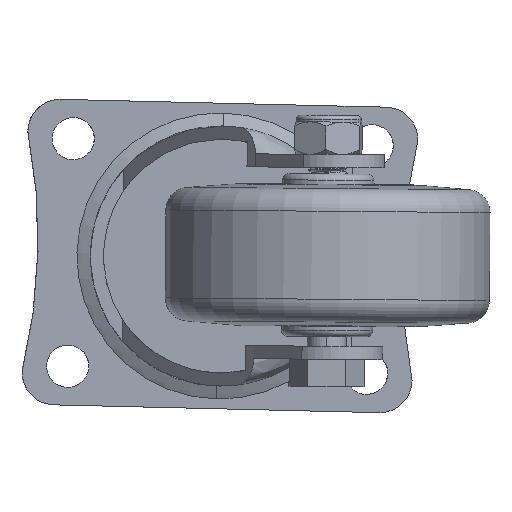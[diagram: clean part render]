
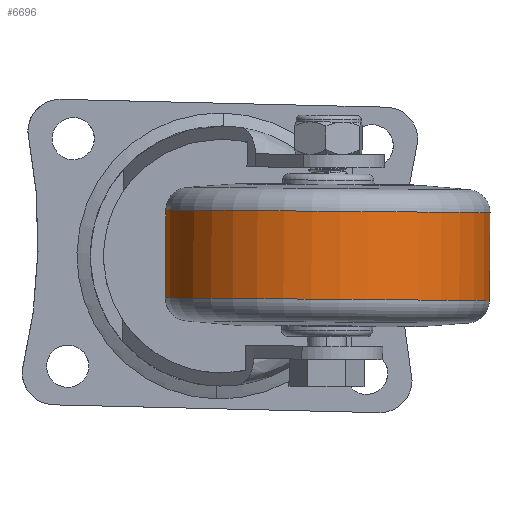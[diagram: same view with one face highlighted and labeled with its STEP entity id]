
A CAD part, front view. The second image highlights one B-rep face of the part: STEP entity #6696.
In plain terms, the highlighted cylindrical face has radius 25 mm (diameter 50 mm), a partial arc.
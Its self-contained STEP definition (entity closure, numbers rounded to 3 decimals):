
#21 = ORIENTED_EDGE ( 'NONE', *, *, #24185, .F. ) ;
#1065 = VERTEX_POINT ( 'NONE', #10684 ) ;
#1721 = AXIS2_PLACEMENT_3D ( 'NONE', #16814, #25605, #5898 ) ;
#3779 = ORIENTED_EDGE ( 'NONE', *, *, #6376, .T. ) ;
#4606 = EDGE_CURVE ( 'NONE', #19801, #21156, #15026, .T. ) ;
#5113 = DIRECTION ( 'NONE',  ( 0., 0., -1. ) ) ;
#5623 = CARTESIAN_POINT ( 'NONE',  ( 0., 0., 0. ) ) ;
#5898 = DIRECTION ( 'NONE',  ( 0., 0., -1. ) ) ;
#6376 = EDGE_CURVE ( 'NONE', #21355, #1065, #13496, .T. ) ;
#6628 = AXIS2_PLACEMENT_3D ( 'NONE', #12020, #20804, #5113 ) ;
#6696 = ADVANCED_FACE ( 'NONE', ( #18022 ), #14517, .T. ) ;
#6768 = EDGE_LOOP ( 'NONE', ( #21, #3779, #16730, #24713 ) ) ;
#10623 = CARTESIAN_POINT ( 'NONE',  ( 0., 6.767, 25. ) ) ;
#10684 = CARTESIAN_POINT ( 'NONE',  ( 0., 6.767, -25. ) ) ;
#12020 = CARTESIAN_POINT ( 'NONE',  ( 0., 6.767, 0. ) ) ;
#12221 = DIRECTION ( 'NONE',  ( 0., 0., -1. ) ) ;
#12659 = EDGE_CURVE ( 'NONE', #1065, #21156, #20163, .T. ) ;
#13496 = CIRCLE ( 'NONE', #6628, 25. ) ;
#14517 = CYLINDRICAL_SURFACE ( 'NONE', #16278, 25. ) ;
#14774 = CARTESIAN_POINT ( 'NONE',  ( 0., -6.767, -25. ) ) ;
#15026 = CIRCLE ( 'NONE', #1721, 25. ) ;
#15829 = DIRECTION ( 'NONE',  ( 0., -1., 0. ) ) ;
#16278 = AXIS2_PLACEMENT_3D ( 'NONE', #5623, #27626, #12221 ) ;
#16432 = LINE ( 'NONE', #25209, #24672 ) ;
#16574 = DIRECTION ( 'NONE',  ( 0., -1., 0. ) ) ;
#16730 = ORIENTED_EDGE ( 'NONE', *, *, #12659, .T. ) ;
#16814 = CARTESIAN_POINT ( 'NONE',  ( 0., -6.767, 0. ) ) ;
#18022 = FACE_OUTER_BOUND ( 'NONE', #6768, .T. ) ;
#19801 = VERTEX_POINT ( 'NONE', #22610 ) ;
#20163 = LINE ( 'NONE', #26786, #23860 ) ;
#20804 = DIRECTION ( 'NONE',  ( 0., -1., 0. ) ) ;
#21156 = VERTEX_POINT ( 'NONE', #14774 ) ;
#21355 = VERTEX_POINT ( 'NONE', #10623 ) ;
#22610 = CARTESIAN_POINT ( 'NONE',  ( 0., -6.767, 25. ) ) ;
#23860 = VECTOR ( 'NONE', #15829, 1000. ) ;
#24185 = EDGE_CURVE ( 'NONE', #21355, #19801, #16432, .T. ) ;
#24672 = VECTOR ( 'NONE', #16574, 1000. ) ;
#24713 = ORIENTED_EDGE ( 'NONE', *, *, #4606, .F. ) ;
#25209 = CARTESIAN_POINT ( 'NONE',  ( 0., 0., 25. ) ) ;
#25605 = DIRECTION ( 'NONE',  ( 0., -1., 0. ) ) ;
#26786 = CARTESIAN_POINT ( 'NONE',  ( 0., 0., -25. ) ) ;
#27626 = DIRECTION ( 'NONE',  ( 0., -1., 0. ) ) ;
